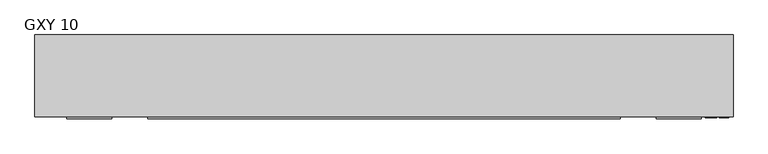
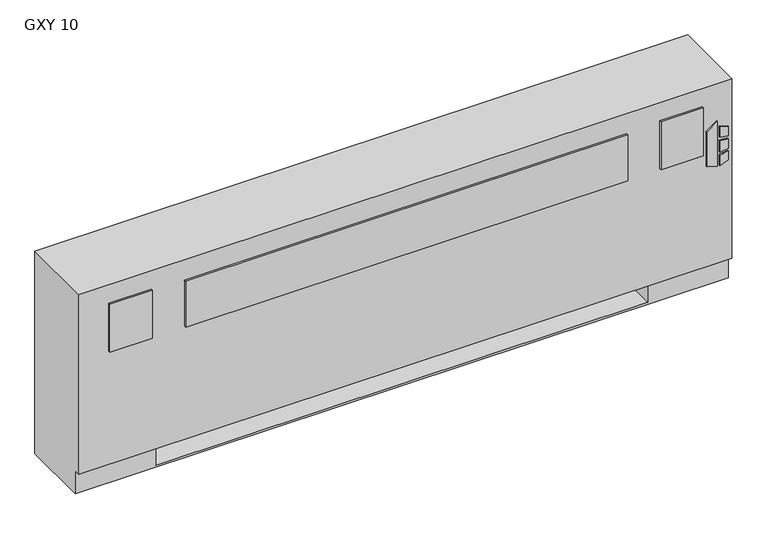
"""IFC4 building model written with IfcOpenShell, lengths in millimetres: proxy geometry, Vertical_Fan_Coil_Unit_-_GXY_-_IEC_-_2-Pipe_FS-FR_RH_2022 : GXY 10."""

from ifc_helpers import new_model, si_unit, point, frame, frame_2d, origin, place, context, project, spatial, polyline, circle_curve, trimmed, segment, composite_curve, outline, extrude, source, transform, mapped, element, save
from ifc_brep_helpers import plane_surface, revolved_surface, advanced_brep


def gxy_10_41770ce1(model_context):
    return source(origin(), model_context, "Body", "SolidModel", [
        extrude(outline(polyline([(391.6086829, 1052.5868862), (381.6606126, 1084.7602728), (523.831537, 1084.7602728), (500.8095309, 1052.5868862), (391.6086829, 1052.5868862)])), frame((0.0, 12.7, 0.0), z_axis=(0.0, 1.0, 0.0), x_axis=(0.0, 0.0, 1.0)), (0.0, 0.0, 1.0), 3.175),
        extrude(outline(polyline([(470.6079683, 1091.5186058), (467.4055757, 1117.6), (496.6344168, 1117.6), (504.6988318, 1091.5186058), (470.6079683, 1091.5186058)])), frame((0.0, 12.7, 0.0), z_axis=(0.0, 1.0, 0.0), x_axis=(0.0, 0.0, 1.0)), (0.0, 0.0, 1.0), 3.175),
        extrude(outline(polyline([(418.7444414, 1117.6), (415.0789404, 1091.5186058), (381.6606126, 1091.5186058), (390.2948498, 1117.6), (418.7444414, 1117.6)])), frame((0.0, 12.7, 0.0), z_axis=(0.0, 1.0, 0.0), x_axis=(0.0, 0.0, 1.0)), (0.0, 0.0, 1.0), 3.175),
        extrude(outline(polyline([(458.0596028, 1117.6), (460.3414292, 1091.5186058), (424.4038806, 1091.5186058), (427.1451456, 1117.6), (458.0596028, 1117.6)])), frame((0.0, 12.7, 0.0), z_axis=(0.0, 1.0, 0.0), x_axis=(0.0, 0.0, 1.0)), (0.0, 0.0, 1.0), 3.175),
        extrude(outline(polyline([(-609.6, 9.525), (-736.6, 9.525), (-736.6, 15.875), (-609.6, 15.875), (-609.6, 9.525)])), frame((0.0, 0.0, 431.8), z_axis=(0.0, 0.0, 1.0), x_axis=(1.0, 0.0, 0.0)), (0.0, 0.0, 1.0), 152.4),
        extrude(outline(polyline([(814.3875, 9.525), (-509.5875, 9.525), (-509.5875, 15.875), (814.3875, 15.875), (814.3875, 9.525)])), frame((0.0, 0.0, 431.8), z_axis=(0.0, 0.0, 1.0), x_axis=(1.0, 0.0, 0.0)), (0.0, 0.0, 1.0), 146.05),
        extrude(outline(polyline([(1041.4, 9.525), (914.4, 9.525), (914.4, 15.875), (1041.4, 15.875), (1041.4, 9.525)])), frame((0.0, 0.0, 431.8), z_axis=(0.0, 0.0, 1.0), x_axis=(1.0, 0.0, 0.0)), (0.0, 0.0, 1.0), 152.4),
        extrude(outline(polyline([(-704.85, 81.534), (-704.85, 223.266), (-127.0, 223.266), (-127.0, 81.534), (-704.85, 81.534)])), frame((0.0, 0.0, 327.025), z_axis=(0.0, 0.0, 1.0), x_axis=(1.0, 0.0, 0.0)), (0.0, 0.0, 1.0), 260.35),
        extrude(outline(composite_curve([segment(trimmed(circle_curve(frame_2d((78.9432, 398.5514)), 7.9375), [point((78.9432, 406.4889))], [point((78.9432, 390.6139))], False, "CARTESIAN"), True, "CONTINUOUS"), segment(trimmed(circle_curve(frame_2d((78.9432, 398.5514)), 7.9375), [point((78.9432, 390.6139))], [point((78.9432, 406.4889))], False, "CARTESIAN"), True, "CONTINUOUS")], self_intersect=False)), frame((889.0, 0.0, 0.0), z_axis=(1.0, 0.0, 0.0), x_axis=(0.0, 1.0, 0.0)), (0.0, 0.0, 1.0), 50.8),
        extrude(outline(composite_curve([segment(trimmed(circle_curve(frame_2d((155.9052, 537.3878)), 7.9375), [point((155.9052, 545.3253))], [point((155.9052, 529.4503))], False, "CARTESIAN"), True, "CONTINUOUS"), segment(trimmed(circle_curve(frame_2d((155.9052, 537.3878)), 7.9375), [point((155.9052, 529.4503))], [point((155.9052, 545.3253))], False, "CARTESIAN"), True, "CONTINUOUS")], self_intersect=False)), frame((889.0, 0.0, 0.0), z_axis=(1.0, 0.0, 0.0), x_axis=(0.0, 1.0, 0.0)), (0.0, 0.0, 1.0), 50.8),
        advanced_brep(
        [(1130.3, 244.475, 641.35), (-825.5, 244.475, 641.35), (-825.5, 15.875, 641.35), (1130.3, 15.875, 641.35), (-825.5, 244.475, 0.0), (1130.3, 244.475, 0.0), (1130.3, 34.925, 0.0), (-825.5, 34.925, 0.0), (889.0, 244.475, 73.025), (1117.6, 244.475, 73.025), (1117.6, 244.475, 628.65), (889.0, 244.475, 628.65), (889.0, 244.475, 418.0400565), (917.575, 244.475, 418.0400565), (917.575, 244.475, 388.4099435), (889.0, 244.475, 388.4099435), (889.0, 244.475, 290.5125), (917.575, 244.475, 290.5125), (917.575, 244.475, 261.9375), (889.0, 244.475, 261.9375), (889.0, 244.475, 119.0625), (917.575, 244.475, 119.0625), (917.575, 244.475, 90.4875), (889.0, 244.475, 90.4875), (-584.2, 244.475, 628.65), (-812.8, 244.475, 628.65), (-812.8, 244.475, 73.025), (-584.2, 244.475, 73.025), (-584.2, 244.475, 90.4875), (-612.775, 244.475, 90.4875), (-612.775, 244.475, 119.0625), (-584.2, 244.475, 119.0625), (-584.2, 244.475, 261.9375), (-612.775, 244.475, 261.9375), (-612.775, 244.475, 290.5125), (-584.2, 244.475, 290.5125), (-584.2, 244.475, 388.4099435), (-612.775, 244.475, 388.4099435), (-612.775, 244.475, 418.0400565), (-584.2, 244.475, 418.0400565), (907.2626, 244.475, 104.775), (896.1374, 244.475, 104.775), (907.2626, 244.475, 403.225), (896.1374, 244.475, 403.225), (907.2626, 244.475, 276.225), (896.1374, 244.475, 276.225), (-591.3374, 244.475, 104.775), (-602.4626, 244.475, 104.775), (-591.3374, 244.475, 276.225), (-602.4626, 244.475, 276.225), (-591.3374, 244.475, 403.225), (-602.4626, 244.475, 403.225), (-825.5, 34.925, 73.025), (-825.5, 15.875, 73.025), (1130.3, 15.875, 73.025), (1130.3, 34.925, 73.025), (-584.2, 34.925, 73.025), (-584.2, 219.075, 73.025), (889.0, 219.075, 73.025), (889.0, 34.925, 73.025), (889.0, 34.925, 6.35), (-584.2, 34.925, 6.35), (889.0, 41.275, 628.65), (1117.6, 41.275, 628.65), (1117.6, 41.275, 73.025), (889.0, 41.275, 73.025), (-584.2, 41.275, 628.65), (-584.2, 41.275, 73.025), (-812.8, 41.275, 73.025), (-812.8, 41.275, 628.65), (889.0, 219.075, 73.025), (889.0, 238.125, 90.4875), (889.0, 238.125, 119.0625), (889.0, 238.125, 261.9375), (889.0, 238.125, 290.5125), (889.0, 238.125, 388.4099435), (889.0, 238.125, 418.0400565), (-584.2, 219.075, 73.025), (-584.2, 238.125, 418.0400565), (-584.2, 238.125, 388.4099435), (-584.2, 238.125, 290.5125), (-584.2, 238.125, 261.9375), (-584.2, 238.125, 119.0625), (-584.2, 238.125, 90.4875), (-584.2, 219.075, 6.35), (889.0, 219.075, 6.35), (917.575, 238.125, 90.4875), (917.575, 238.125, 119.0625), (896.1374, 238.125, 104.775), (907.2626, 238.125, 104.775), (917.575, 238.125, 261.9375), (917.575, 238.125, 290.5125), (896.1374, 238.125, 276.225), (907.2626, 238.125, 276.225), (917.575, 238.125, 388.4099435), (917.575, 238.125, 418.0400565), (896.1374, 238.125, 403.225), (907.2626, 238.125, 403.225), (-612.775, 238.125, 119.0625), (-612.775, 238.125, 90.4875), (-602.4626, 238.125, 104.775), (-591.3374, 238.125, 104.775), (-612.775, 238.125, 290.5125), (-612.775, 238.125, 261.9375), (-602.4626, 238.125, 276.225), (-591.3374, 238.125, 276.225), (-612.775, 238.125, 418.0400565), (-612.775, 238.125, 388.4099435), (-602.4626, 238.125, 403.225), (-591.3374, 238.125, 403.225)],
        [
            (0, 1),
            (1, 2),
            (2, 3),
            (3, 0),
            (4, 5),
            (5, 6),
            (6, 7),
            (7, 4),
            (0, 5),
            (4, 1),
            (8, 9),
            (9, 10),
            (10, 11),
            (11, 12),
            (12, 13),
            (13, 14),
            (14, 15),
            (15, 16),
            (16, 17),
            (17, 18),
            (18, 19),
            (19, 20),
            (20, 21),
            (21, 22),
            (22, 23),
            (23, 8),
            (24, 25),
            (25, 26),
            (26, 27),
            (27, 28),
            (28, 29),
            (29, 30),
            (30, 31),
            (31, 32),
            (32, 33),
            (33, 34),
            (34, 35),
            (35, 36),
            (36, 37),
            (37, 38),
            (38, 39),
            (39, 24),
            (40, 41, circle_curve(frame((901.7, 244.475, 104.775), z_axis=(0.0, -1.0, 0.0), x_axis=(-1.0, 0.0, 0.0)), 5.5626)),
            (41, 40, circle_curve(frame((901.7, 244.475, 104.775), z_axis=(0.0, -1.0, 0.0), x_axis=(-1.0, 0.0, 0.0)), 5.5626)),
            (42, 43, circle_curve(frame((901.7, 244.475, 403.225), z_axis=(0.0, -1.0, 0.0), x_axis=(-1.0, 0.0, 0.0)), 5.5626)),
            (43, 42, circle_curve(frame((901.7, 244.475, 403.225), z_axis=(0.0, -1.0, 0.0), x_axis=(-1.0, 0.0, 0.0)), 5.5626)),
            (44, 45, circle_curve(frame((901.7, 244.475, 276.225), z_axis=(0.0, -1.0, 0.0), x_axis=(-1.0, 0.0, 0.0)), 5.5626)),
            (45, 44, circle_curve(frame((901.7, 244.475, 276.225), z_axis=(0.0, -1.0, 0.0), x_axis=(-1.0, 0.0, 0.0)), 5.5626)),
            (46, 47, circle_curve(frame((-596.9, 244.475, 104.775), z_axis=(0.0, -1.0, 0.0), x_axis=(-1.0, 0.0, 0.0)), 5.5626)),
            (47, 46, circle_curve(frame((-596.9, 244.475, 104.775), z_axis=(0.0, -1.0, 0.0), x_axis=(-1.0, 0.0, 0.0)), 5.5626)),
            (48, 49, circle_curve(frame((-596.9, 244.475, 276.225), z_axis=(0.0, -1.0, 0.0), x_axis=(-1.0, 0.0, 0.0)), 5.5626)),
            (49, 48, circle_curve(frame((-596.9, 244.475, 276.225), z_axis=(0.0, -1.0, 0.0), x_axis=(-1.0, 0.0, 0.0)), 5.5626)),
            (50, 51, circle_curve(frame((-596.9, 244.475, 403.225), z_axis=(0.0, -1.0, 0.0), x_axis=(-1.0, 0.0, 0.0)), 5.5626)),
            (51, 50, circle_curve(frame((-596.9, 244.475, 403.225), z_axis=(0.0, -1.0, 0.0), x_axis=(-1.0, 0.0, 0.0)), 5.5626)),
            (7, 52),
            (52, 53),
            (53, 2),
            (53, 54),
            (54, 3),
            (54, 55),
            (55, 6),
            (52, 56),
            (56, 57),
            (57, 58),
            (58, 59),
            (59, 55),
            (59, 60),
            (60, 61),
            (61, 56),
            (62, 63),
            (63, 64),
            (64, 65),
            (65, 62),
            (66, 67),
            (67, 68),
            (68, 69),
            (69, 66),
            (65, 70),
            (70, 8),
            (23, 71),
            (71, 72),
            (72, 20),
            (19, 73),
            (73, 74),
            (74, 16),
            (15, 75),
            (75, 76),
            (76, 12),
            (11, 62),
            (64, 9),
            (63, 10),
            (69, 25),
            (24, 66),
            (68, 26),
            (67, 77),
            (77, 27),
            (39, 78),
            (78, 79),
            (79, 36),
            (35, 80),
            (80, 81),
            (81, 32),
            (31, 82),
            (82, 83),
            (83, 28),
            (57, 84),
            (84, 85),
            (85, 58),
            (85, 60),
            (84, 61),
            (71, 86),
            (86, 87),
            (87, 72),
            (88, 89, circle_curve(frame((901.7, 238.125, 104.775), z_axis=(0.0, 1.0, 0.0), x_axis=(-1.0, 0.0, 0.0)), 5.5626)),
            (89, 88, circle_curve(frame((901.7, 238.125, 104.775), z_axis=(0.0, 1.0, 0.0), x_axis=(-1.0, 0.0, 0.0)), 5.5626)),
            (73, 90),
            (90, 91),
            (91, 74),
            (92, 93, circle_curve(frame((901.7, 238.125, 276.225), z_axis=(0.0, 1.0, 0.0), x_axis=(-1.0, 0.0, 0.0)), 5.5626)),
            (93, 92, circle_curve(frame((901.7, 238.125, 276.225), z_axis=(0.0, 1.0, 0.0), x_axis=(-1.0, 0.0, 0.0)), 5.5626)),
            (75, 94),
            (94, 95),
            (95, 76),
            (96, 97, circle_curve(frame((901.7, 238.125, 403.225), z_axis=(0.0, 1.0, 0.0), x_axis=(-1.0, 0.0, 0.0)), 5.5626)),
            (97, 96, circle_curve(frame((901.7, 238.125, 403.225), z_axis=(0.0, 1.0, 0.0), x_axis=(-1.0, 0.0, 0.0)), 5.5626)),
            (98, 99),
            (99, 83),
            (82, 98),
            (100, 101, circle_curve(frame((-596.9, 238.125, 104.775), z_axis=(0.0, 1.0, 0.0), x_axis=(-1.0, 0.0, 0.0)), 5.5626)),
            (101, 100, circle_curve(frame((-596.9, 238.125, 104.775), z_axis=(0.0, 1.0, 0.0), x_axis=(-1.0, 0.0, 0.0)), 5.5626)),
            (102, 103),
            (103, 81),
            (80, 102),
            (104, 105, circle_curve(frame((-596.9, 238.125, 276.225), z_axis=(0.0, 1.0, 0.0), x_axis=(-1.0, 0.0, 0.0)), 5.5626)),
            (105, 104, circle_curve(frame((-596.9, 238.125, 276.225), z_axis=(0.0, 1.0, 0.0), x_axis=(-1.0, 0.0, 0.0)), 5.5626)),
            (106, 107),
            (107, 79),
            (78, 106),
            (108, 109, circle_curve(frame((-596.9, 238.125, 403.225), z_axis=(0.0, 1.0, 0.0), x_axis=(-1.0, 0.0, 0.0)), 5.5626)),
            (109, 108, circle_curve(frame((-596.9, 238.125, 403.225), z_axis=(0.0, 1.0, 0.0), x_axis=(-1.0, 0.0, 0.0)), 5.5626)),
            (87, 21),
            (86, 22),
            (91, 17),
            (90, 18),
            (95, 13),
            (94, 14),
            (30, 98),
            (99, 29),
            (34, 102),
            (103, 33),
            (38, 106),
            (107, 37),
            (88, 41),
            (40, 89),
            (96, 43),
            (42, 97),
            (92, 45),
            (44, 93),
            (100, 47),
            (46, 101),
            (104, 49),
            (48, 105),
            (108, 51),
            (50, 109),
        ],
        [
            plane_surface(frame((-825.5, 244.475, 641.35), z_axis=(0.0, 0.0, 1.0), x_axis=(-1.0, 0.0, 0.0))),
            plane_surface(frame((-825.5, 244.475, 0.0), z_axis=(0.0, 0.0, -1.0), x_axis=(1.0, 0.0, 0.0))),
            plane_surface(frame((1130.3, 244.475, 641.35), z_axis=(0.0, 1.0, 0.0), x_axis=(0.0, 0.0, -1.0))),
            plane_surface(frame((-825.5, 244.475, 641.35), z_axis=(-1.0, 0.0, 0.0), x_axis=(0.0, 0.0, -1.0))),
            plane_surface(frame((-825.5, 15.875, 641.35), z_axis=(0.0, -1.0, 0.0), x_axis=(0.0, 0.0, -1.0))),
            plane_surface(frame((1130.3, 15.875, 641.35), z_axis=(1.0, 0.0, 0.0), x_axis=(0.0, 0.0, -1.0))),
            plane_surface(frame((-825.5, 15.875, 73.025), z_axis=(0.0, 0.0, -1.0), x_axis=(1.0, 0.0, 0.0))),
            plane_surface(frame((-825.5, 34.925, 73.025), z_axis=(0.0, -1.0, 0.0), x_axis=(1.0, 0.0, 0.0))),
            plane_surface(frame((889.0, 41.275, 628.65), z_axis=(0.0, 1.0, 0.0), x_axis=(0.0, 0.0, -1.0))),
            plane_surface(frame((889.0, 41.275, 628.65), z_axis=(1.0, 0.0, 0.0), x_axis=(0.0, 1.0, 0.0))),
            plane_surface(frame((889.0, 41.275, 73.025), z_axis=(0.0, 0.0, 1.0), x_axis=(0.0, 1.0, 0.0))),
            plane_surface(frame((1117.6, 41.275, 73.025), z_axis=(-1.0, 0.0, 0.0), x_axis=(0.0, 1.0, 0.0))),
            plane_surface(frame((1117.6, 41.275, 628.65), z_axis=(0.0, 0.0, -1.0), x_axis=(0.0, 1.0, 0.0))),
            plane_surface(frame((-584.2, 41.275, 628.65), z_axis=(0.0, 0.0, -1.0), x_axis=(0.0, 1.0, 0.0))),
            plane_surface(frame((-812.8, 41.275, 628.65), z_axis=(1.0, 0.0, 0.0), x_axis=(0.0, 1.0, 0.0))),
            plane_surface(frame((-812.8, 41.275, 73.025), z_axis=(0.0, 0.0, 1.0), x_axis=(0.0, 1.0, 0.0))),
            plane_surface(frame((-584.2, 41.275, 73.025), z_axis=(-1.0, 0.0, 0.0), x_axis=(0.0, 1.0, 0.0))),
            plane_surface(frame((889.0, 219.075, 73.025), z_axis=(0.0, -1.0, 0.0), x_axis=(0.0, 0.0, -1.0))),
            plane_surface(frame((889.0, 219.075, 73.025), z_axis=(-1.0, 0.0, 0.0), x_axis=(0.0, -1.0, 0.0))),
            plane_surface(frame((889.0, 219.075, 6.35), z_axis=(0.0, 0.0, 1.0), x_axis=(0.0, -1.0, 0.0))),
            plane_surface(frame((-584.2, 219.075, 6.35), z_axis=(1.0, 0.0, 0.0), x_axis=(0.0, -1.0, 0.0))),
            plane_surface(frame((917.575, 238.125, 119.0625), z_axis=(0.0, -1.0, 0.0), x_axis=(-1.0, 0.0, 0.0))),
            plane_surface(frame((889.0, 244.475, 119.0625), z_axis=(0.0, 0.0, 1.0), x_axis=(0.0, -1.0, 0.0))),
            plane_surface(frame((917.575, 244.475, 119.0625), z_axis=(1.0, 0.0, 0.0), x_axis=(0.0, -1.0, 0.0))),
            plane_surface(frame((917.575, 244.475, 90.4875), z_axis=(0.0, 0.0, -1.0), x_axis=(0.0, -1.0, 0.0))),
            plane_surface(frame((889.0, 244.475, 290.5125), z_axis=(0.0, 0.0, 1.0), x_axis=(0.0, -1.0, 0.0))),
            plane_surface(frame((917.575, 244.475, 290.5125), z_axis=(1.0, 0.0, 0.0), x_axis=(0.0, -1.0, 0.0))),
            plane_surface(frame((917.575, 244.475, 261.9375), z_axis=(0.0, 0.0, -1.0), x_axis=(0.0, -1.0, 0.0))),
            plane_surface(frame((889.0, 244.475, 418.0400565), z_axis=(0.0, 0.0, 1.0), x_axis=(0.0, -1.0, 0.0))),
            plane_surface(frame((917.575, 244.475, 418.0400565), z_axis=(1.0, 0.0, 0.0), x_axis=(0.0, -1.0, 0.0))),
            plane_surface(frame((917.575, 244.475, 388.4099435), z_axis=(0.0, 0.0, -1.0), x_axis=(0.0, -1.0, 0.0))),
            plane_surface(frame((-612.775, 244.475, 119.0625), z_axis=(0.0, 0.0, 1.0), x_axis=(0.0, -1.0, 0.0))),
            plane_surface(frame((-584.2, 244.475, 90.4875), z_axis=(0.0, 0.0, -1.0), x_axis=(0.0, -1.0, 0.0))),
            plane_surface(frame((-612.775, 244.475, 90.4875), z_axis=(-1.0, 0.0, 0.0), x_axis=(0.0, -1.0, 0.0))),
            plane_surface(frame((-612.775, 244.475, 290.5125), z_axis=(0.0, 0.0, 1.0), x_axis=(0.0, -1.0, 0.0))),
            plane_surface(frame((-584.2, 244.475, 261.9375), z_axis=(0.0, 0.0, -1.0), x_axis=(0.0, -1.0, 0.0))),
            plane_surface(frame((-612.775, 244.475, 261.9375), z_axis=(-1.0, 0.0, 0.0), x_axis=(0.0, -1.0, 0.0))),
            plane_surface(frame((-612.775, 244.475, 418.0400565), z_axis=(0.0, 0.0, 1.0), x_axis=(0.0, -1.0, 0.0))),
            plane_surface(frame((-584.2, 244.475, 388.4099435), z_axis=(0.0, 0.0, -1.0), x_axis=(0.0, -1.0, 0.0))),
            plane_surface(frame((-612.775, 244.475, 388.4099435), z_axis=(-1.0, 0.0, 0.0), x_axis=(0.0, -1.0, 0.0))),
            revolved_surface(polyline([(896.1374000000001, 238.125, 104.775), (896.1374000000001, 244.475, 104.775)]), (901.7, 244.475, 104.775), (0.0, -1.0, 0.0)),
            revolved_surface(polyline([(896.1374000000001, 238.125, 403.225), (896.1374000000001, 244.475, 403.225)]), (901.7, 244.475, 403.225), (0.0, -1.0, 0.0)),
            revolved_surface(polyline([(896.1374000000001, 238.125, 276.225), (896.1374000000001, 244.475, 276.225)]), (901.7, 244.475, 276.225), (0.0, -1.0, 0.0)),
            revolved_surface(polyline([(-602.4626, 238.125, 104.775), (-602.4626, 244.475, 104.775)]), (-596.9, 244.475, 104.775), (0.0, -1.0, 0.0)),
            revolved_surface(polyline([(-602.4626, 238.125, 276.225), (-602.4626, 244.475, 276.225)]), (-596.9, 244.475, 276.225), (0.0, -1.0, 0.0)),
            revolved_surface(polyline([(-602.4626, 238.125, 403.225), (-602.4626, 244.475, 403.225)]), (-596.9, 244.475, 403.225), (0.0, -1.0, 0.0)),
        ],
        [
            (0, [[1, 2, 3, 4]]),
            (1, [[5, 6, 7, 8]]),
            (2, [[-1, 9, -5, 10], [11, 12, 13, 14, 15, 16, 17, 18, 19, 20, 21, 22, 23, 24, 25, 26], [27, 28, 29, 30, 31, 32, 33, 34, 35, 36, 37, 38, 39, 40, 41, 42], [43, 44], [45, 46], [47, 48], [49, 50], [51, 52], [53, 54]]),
            (3, [[-2, -10, -8, 55, 56, 57]]),
            (4, [[-3, -57, 58, 59]]),
            (5, [[-4, -59, 60, 61, -6, -9]]),
            (6, [[-56, 62, 63, 64, 65, 66, -60, -58]]),
            (7, [[-7, -61, -66, 67, 68, 69, -62, -55]]),
            (8, [[70, 71, 72, 73]]),
            (8, [[74, 75, 76, 77]]),
            (9, [[-73, 78, 79, -26, 80, 81, 82, -22, 83, 84, 85, -18, 86, 87, 88, -14, 89]]),
            (10, [[-72, 90, -11, -79, -78]]),
            (11, [[-71, 91, -12, -90]]),
            (12, [[-70, -89, -13, -91]]),
            (13, [[-77, 92, -27, 93]]),
            (14, [[-76, 94, -28, -92]]),
            (15, [[-75, 95, 96, -29, -94]]),
            (16, [[-74, -93, -42, 97, 98, 99, -38, 100, 101, 102, -34, 103, 104, 105, -30, -96, -95]]),
            (17, [[-64, 106, 107, 108]]),
            (18, [[-108, 109, -67, -65]]),
            (19, [[-107, 110, -68, -109]]),
            (20, [[-106, -63, -69, -110]]),
            (21, [[111, 112, 113, -81], [114, 115]]),
            (21, [[116, 117, 118, -84], [119, 120]]),
            (21, [[121, 122, 123, -87], [124, 125]]),
            (21, [[126, 127, -104, 128], [129, 130]]),
            (21, [[131, 132, -101, 133], [134, 135]]),
            (21, [[136, 137, -98, 138], [139, 140]]),
            (22, [[-113, 141, -23, -82]]),
            (23, [[-112, 142, -24, -141]]),
            (24, [[-111, -80, -25, -142]]),
            (25, [[-118, 143, -19, -85]]),
            (26, [[-117, 144, -20, -143]]),
            (27, [[-116, -83, -21, -144]]),
            (28, [[-123, 145, -15, -88]]),
            (29, [[-122, 146, -16, -145]]),
            (30, [[-121, -86, -17, -146]]),
            (31, [[-128, -103, -33, 147]]),
            (32, [[-127, 148, -31, -105]]),
            (33, [[-126, -147, -32, -148]]),
            (34, [[-133, -100, -37, 149]]),
            (35, [[-132, 150, -35, -102]]),
            (36, [[-131, -149, -36, -150]]),
            (37, [[-138, -97, -41, 151]]),
            (38, [[-137, 152, -39, -99]]),
            (39, [[-136, -151, -40, -152]]),
            (40, [[153, -43, 154, -114]]),
            (40, [[-153, -115, -154, -44]]),
            (41, [[155, -45, 156, -124]]),
            (41, [[-155, -125, -156, -46]]),
            (42, [[157, -47, 158, -119]]),
            (42, [[-157, -120, -158, -48]]),
            (43, [[159, -49, 160, -129]]),
            (43, [[-159, -130, -160, -50]]),
            (44, [[161, -51, 162, -134]]),
            (44, [[-161, -135, -162, -52]]),
            (45, [[163, -53, 164, -139]]),
            (45, [[-163, -140, -164, -54]]),
        ],
    ),
    ])


if __name__ == "__main__":
    model = new_model("IFC4")
    model_context = context("Model", 3, world=origin())
    ifc_project = project(units=[si_unit("LENGTHUNIT", "METRE", prefix="MILLI")], contexts=[model_context])
    site = spatial("IfcSite", under=ifc_project)
    building = spatial("IfcBuilding", under=site)
    placement = place(None, origin())
    gxy_10_shape = gxy_10_41770ce1(model_context)
    element("IfcBuildingElementProxy", 1, Name="Vertical_Fan_Coil_Unit_-_GXY_-_IEC_-_2-Pipe_FS-FR_RH_2022 : GXY 10", ObjectType="Vertical_Fan_Coil_Unit_-_GXY_-_IEC_-_2-Pipe_FS-FR_RH_2022 : GXY 10", at=placement, inside=building, context=model_context, shape_type="MappedRepresentation", body=[
        mapped(gxy_10_shape, transform((0.0, 0.0, 0.0), x_axis=(1.0, 0.0, 0.0), y_axis=(0.0, 1.0, 0.0), z_axis=(0.0, 0.0, 1.0))),
    ])
    save(model, "model.ifc")
